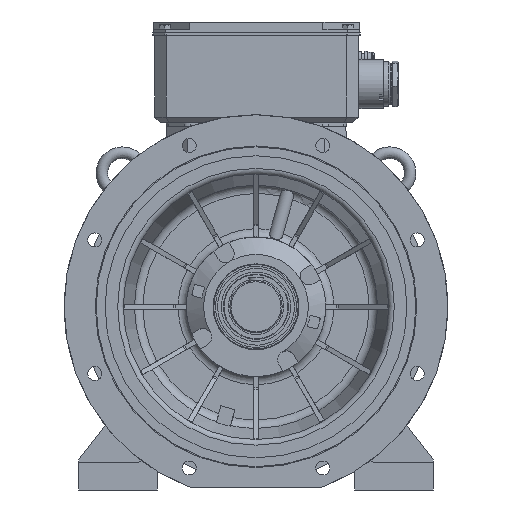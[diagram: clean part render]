
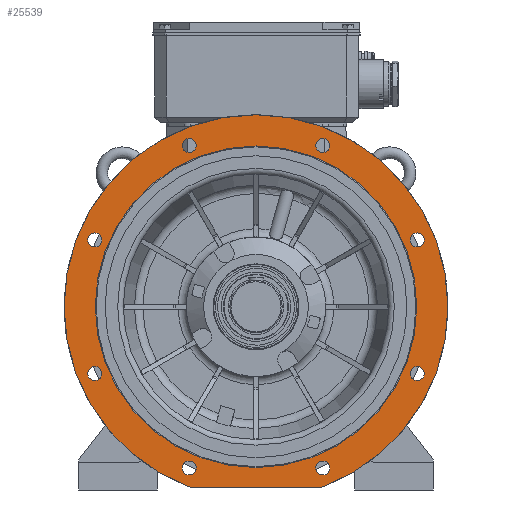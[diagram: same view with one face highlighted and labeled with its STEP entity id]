
A CAD part, front view. The second image highlights one B-rep face of the part: STEP entity #25539.
In plain terms, the highlighted planar face has unit normal (0, -1, 0).
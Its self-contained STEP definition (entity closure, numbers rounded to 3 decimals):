
#1200=CIRCLE('',#26259,3.);
#1201=CIRCLE('',#26261,3.);
#1202=CIRCLE('',#26263,330.);
#1701=CIRCLE('',#27525,12.);
#1703=CIRCLE('',#27528,12.);
#1705=CIRCLE('',#27531,12.);
#1707=CIRCLE('',#27534,12.);
#1709=CIRCLE('',#27537,12.);
#1711=CIRCLE('',#27540,12.);
#1713=CIRCLE('',#27543,12.);
#1715=CIRCLE('',#27546,12.);
#1824=CIRCLE('',#27847,276.4);
#8351=ORIENTED_EDGE('',*,*,#10221,.T.);
#8352=ORIENTED_EDGE('',*,*,#12557,.F.);
#8353=ORIENTED_EDGE('',*,*,#10218,.T.);
#8354=ORIENTED_EDGE('',*,*,#10224,.F.);
#8355=ORIENTED_EDGE('',*,*,#12341,.F.);
#8356=ORIENTED_EDGE('',*,*,#12343,.F.);
#8357=ORIENTED_EDGE('',*,*,#12345,.F.);
#8358=ORIENTED_EDGE('',*,*,#12347,.F.);
#8359=ORIENTED_EDGE('',*,*,#12349,.F.);
#8360=ORIENTED_EDGE('',*,*,#12351,.F.);
#8361=ORIENTED_EDGE('',*,*,#12353,.F.);
#8362=ORIENTED_EDGE('',*,*,#12355,.F.);
#8363=ORIENTED_EDGE('',*,*,#12825,.F.);
#10218=EDGE_CURVE('',#13723,#13724,#1200,.F.);
#10221=EDGE_CURVE('',#13725,#13726,#1201,.F.);
#10224=EDGE_CURVE('',#13725,#13724,#1202,.T.);
#12341=EDGE_CURVE('',#15169,#15169,#1701,.F.);
#12343=EDGE_CURVE('',#15171,#15171,#1703,.F.);
#12345=EDGE_CURVE('',#15173,#15173,#1705,.F.);
#12347=EDGE_CURVE('',#15175,#15175,#1707,.F.);
#12349=EDGE_CURVE('',#15177,#15177,#1709,.F.);
#12351=EDGE_CURVE('',#15179,#15179,#1711,.F.);
#12353=EDGE_CURVE('',#15181,#15181,#1713,.F.);
#12355=EDGE_CURVE('',#15183,#15183,#1715,.F.);
#12557=EDGE_CURVE('',#13723,#13726,#17654,.T.);
#12825=EDGE_CURVE('',#15476,#15476,#1824,.F.);
#13723=VERTEX_POINT('',#37451);
#13724=VERTEX_POINT('',#37452);
#13725=VERTEX_POINT('',#37457);
#13726=VERTEX_POINT('',#37458);
#15169=VERTEX_POINT('',#46246);
#15171=VERTEX_POINT('',#46251);
#15173=VERTEX_POINT('',#46256);
#15175=VERTEX_POINT('',#46261);
#15177=VERTEX_POINT('',#46266);
#15179=VERTEX_POINT('',#46271);
#15181=VERTEX_POINT('',#46276);
#15183=VERTEX_POINT('',#46281);
#15476=VERTEX_POINT('',#47700);
#17654=LINE('',#46767,#19876);
#19876=VECTOR('',#33847,1000.);
#21459=EDGE_LOOP('',(#8351,#8352,#8353,#8354));
#21460=EDGE_LOOP('',(#8355));
#21461=EDGE_LOOP('',(#8356));
#21462=EDGE_LOOP('',(#8357));
#21463=EDGE_LOOP('',(#8358));
#21464=EDGE_LOOP('',(#8359));
#21465=EDGE_LOOP('',(#8360));
#21466=EDGE_LOOP('',(#8361));
#21467=EDGE_LOOP('',(#8362));
#21468=EDGE_LOOP('',(#8363));
#23128=FACE_BOUND('',#21459,.T.);
#23129=FACE_BOUND('',#21460,.T.);
#23130=FACE_BOUND('',#21461,.T.);
#23131=FACE_BOUND('',#21462,.T.);
#23132=FACE_BOUND('',#21463,.T.);
#23133=FACE_BOUND('',#21464,.T.);
#23134=FACE_BOUND('',#21465,.T.);
#23135=FACE_BOUND('',#21466,.T.);
#23136=FACE_BOUND('',#21467,.T.);
#23137=FACE_BOUND('',#21468,.T.);
#24239=PLANE('',#27846);
#25539=ADVANCED_FACE('',(#23128,#23129,#23130,#23131,#23132,#23133,#23134,
#23135,#23136,#23137),#24239,.F.);
#26259=AXIS2_PLACEMENT_3D('',#37450,#29566,#29567);
#26261=AXIS2_PLACEMENT_3D('',#37456,#29572,#29573);
#26263=AXIS2_PLACEMENT_3D('',#37462,#29578,#29579);
#27525=AXIS2_PLACEMENT_3D('',#46245,#33447,#33448);
#27528=AXIS2_PLACEMENT_3D('',#46250,#33453,#33454);
#27531=AXIS2_PLACEMENT_3D('',#46255,#33459,#33460);
#27534=AXIS2_PLACEMENT_3D('',#46260,#33465,#33466);
#27537=AXIS2_PLACEMENT_3D('',#46265,#33471,#33472);
#27540=AXIS2_PLACEMENT_3D('',#46270,#33477,#33478);
#27543=AXIS2_PLACEMENT_3D('',#46275,#33483,#33484);
#27546=AXIS2_PLACEMENT_3D('',#46280,#33489,#33490);
#27846=AXIS2_PLACEMENT_3D('',#47698,#34328,#34329);
#27847=AXIS2_PLACEMENT_3D('',#47699,#34330,#34331);
#29566=DIRECTION('',(0.,1.,0.));
#29567=DIRECTION('',(0.,0.,1.));
#29572=DIRECTION('',(0.,1.,0.));
#29573=DIRECTION('',(0.,0.,1.));
#29578=DIRECTION('',(0.,1.,0.));
#29579=DIRECTION('',(0.,0.,1.));
#33447=DIRECTION('',(0.,1.,0.));
#33448=DIRECTION('',(0.,0.,1.));
#33453=DIRECTION('',(0.,1.,0.));
#33454=DIRECTION('',(0.,0.,1.));
#33459=DIRECTION('',(0.,1.,0.));
#33460=DIRECTION('',(0.,0.,1.));
#33465=DIRECTION('',(0.,1.,0.));
#33466=DIRECTION('',(0.,0.,1.));
#33471=DIRECTION('',(0.,1.,0.));
#33472=DIRECTION('',(0.,0.,1.));
#33477=DIRECTION('',(0.,1.,0.));
#33478=DIRECTION('',(0.,0.,1.));
#33483=DIRECTION('',(0.,1.,0.));
#33484=DIRECTION('',(0.,0.,1.));
#33489=DIRECTION('',(0.,1.,0.));
#33490=DIRECTION('',(0.,0.,1.));
#33847=DIRECTION('',(-1.,0.,0.));
#34328=DIRECTION('',(0.,1.,0.));
#34329=DIRECTION('',(1.,0.,0.));
#34330=DIRECTION('',(0.,1.,0.));
#34331=DIRECTION('',(0.,0.,1.));
#37450=CARTESIAN_POINT('',(112.606,-104.997,-307.));
#37451=CARTESIAN_POINT('',(112.606,-104.997,-310.));
#37452=CARTESIAN_POINT('',(113.639,-104.997,-309.817));
#37456=CARTESIAN_POINT('',(-112.606,-104.997,-307.));
#37457=CARTESIAN_POINT('',(-113.639,-104.997,-309.817));
#37458=CARTESIAN_POINT('',(-112.606,-104.997,-310.));
#37462=CARTESIAN_POINT('',(0.,-104.997,0.));
#46245=CARTESIAN_POINT('',(-277.164,-104.997,114.805));
#46246=CARTESIAN_POINT('',(-277.164,-104.997,126.805));
#46250=CARTESIAN_POINT('',(-277.164,-104.997,-114.805));
#46251=CARTESIAN_POINT('',(-277.164,-104.997,-102.805));
#46255=CARTESIAN_POINT('',(-114.805,-104.997,-277.164));
#46256=CARTESIAN_POINT('',(-114.805,-104.997,-265.164));
#46260=CARTESIAN_POINT('',(114.805,-104.997,-277.164));
#46261=CARTESIAN_POINT('',(114.805,-104.997,-265.164));
#46265=CARTESIAN_POINT('',(277.164,-104.997,-114.805));
#46266=CARTESIAN_POINT('',(277.164,-104.997,-102.805));
#46270=CARTESIAN_POINT('',(277.164,-104.997,114.805));
#46271=CARTESIAN_POINT('',(277.164,-104.997,126.805));
#46275=CARTESIAN_POINT('',(114.805,-104.997,277.164));
#46276=CARTESIAN_POINT('',(114.805,-104.997,289.164));
#46280=CARTESIAN_POINT('',(-114.805,-104.997,277.164));
#46281=CARTESIAN_POINT('',(-114.805,-104.997,289.164));
#46767=CARTESIAN_POINT('',(-113.137,-104.997,-310.));
#47698=CARTESIAN_POINT('',(0.,-104.997,276.4));
#47699=CARTESIAN_POINT('',(0.,-104.997,0.));
#47700=CARTESIAN_POINT('',(0.,-104.997,276.4));
